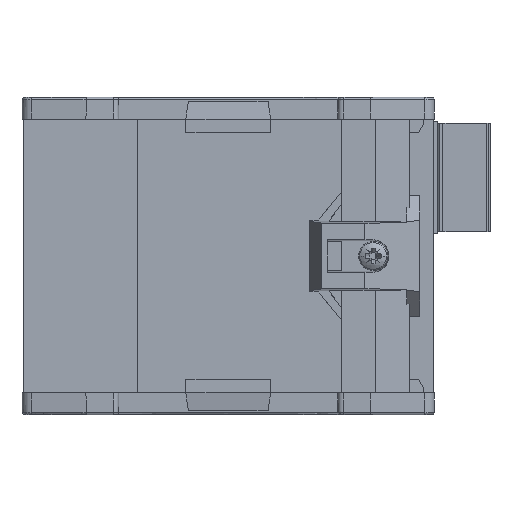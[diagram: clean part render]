
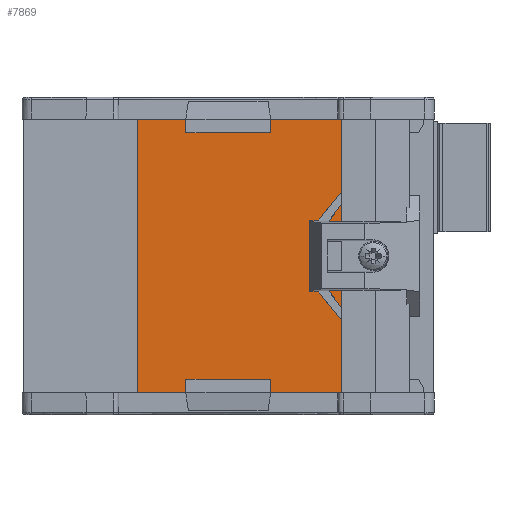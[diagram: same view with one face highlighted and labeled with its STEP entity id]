
A CAD part, left-side view. The second image highlights one B-rep face of the part: STEP entity #7869.
In plain terms, the highlighted planar face has unit normal (-1, 0, 0).
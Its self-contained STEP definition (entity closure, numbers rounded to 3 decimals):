
#2024 = PLANE('',#2025);
#2025 = AXIS2_PLACEMENT_3D('',#2026,#2027,#2028);
#2026 = CARTESIAN_POINT('',(-3.808,36.,1.));
#2027 = DIRECTION('',(0.,0.,-1.));
#2028 = DIRECTION('',(-1.,0.,0.));
#2085 = PLANE('',#2086);
#2086 = AXIS2_PLACEMENT_3D('',#2087,#2088,#2089);
#2087 = CARTESIAN_POINT('',(-3.808,36.,51.));
#2088 = DIRECTION('',(0.,0.,-1.));
#2089 = DIRECTION('',(-1.,0.,0.));
#3995 = VERTEX_POINT('',#3996);
#3996 = CARTESIAN_POINT('',(-25.228,-20.8,1.));
#4010 = PLANE('',#4011);
#4011 = AXIS2_PLACEMENT_3D('',#4012,#4013,#4014);
#4012 = CARTESIAN_POINT('',(-25.228,-20.8,1.));
#4013 = DIRECTION('',(0.,-1.,0.));
#4014 = DIRECTION('',(-1.,0.,0.));
#4022 = EDGE_CURVE('',#4023,#3995,#4025,.T.);
#4023 = VERTEX_POINT('',#4024);
#4024 = CARTESIAN_POINT('',(-25.228,16.5,1.));
#4025 = SURFACE_CURVE('',#4026,(#4030,#4037),.PCURVE_S1.);
#4026 = LINE('',#4027,#4028);
#4027 = CARTESIAN_POINT('',(-25.228,16.5,1.));
#4028 = VECTOR('',#4029,1.);
#4029 = DIRECTION('',(0.,-1.,0.));
#4030 = PCURVE('',#2024,#4031);
#4031 = DEFINITIONAL_REPRESENTATION('',(#4032),#4036);
#4032 = LINE('',#4033,#4034);
#4033 = CARTESIAN_POINT('',(21.42,-19.5));
#4034 = VECTOR('',#4035,1.);
#4035 = DIRECTION('',(0.,-1.));
#4036 = ( GEOMETRIC_REPRESENTATION_CONTEXT(2) 
PARAMETRIC_REPRESENTATION_CONTEXT() REPRESENTATION_CONTEXT('2D SPACE',''
  ) );
#4037 = PCURVE('',#4038,#4043);
#4038 = PLANE('',#4039);
#4039 = AXIS2_PLACEMENT_3D('',#4040,#4041,#4042);
#4040 = CARTESIAN_POINT('',(-25.228,16.5,1.));
#4041 = DIRECTION('',(1.,0.,0.));
#4042 = DIRECTION('',(0.,-1.,0.));
#4043 = DEFINITIONAL_REPRESENTATION('',(#4044),#4048);
#4044 = LINE('',#4045,#4046);
#4045 = CARTESIAN_POINT('',(0.,0.));
#4046 = VECTOR('',#4047,1.);
#4047 = DIRECTION('',(1.,0.));
#4048 = ( GEOMETRIC_REPRESENTATION_CONTEXT(2) 
PARAMETRIC_REPRESENTATION_CONTEXT() REPRESENTATION_CONTEXT('2D SPACE',''
  ) );
#4066 = PLANE('',#4067);
#4067 = AXIS2_PLACEMENT_3D('',#4068,#4069,#4070);
#4068 = CARTESIAN_POINT('',(-29.418,16.5,1.));
#4069 = DIRECTION('',(0.,1.,0.));
#4070 = DIRECTION('',(1.,0.,0.));
#5136 = VERTEX_POINT('',#5137);
#5137 = CARTESIAN_POINT('',(-25.228,-20.8,51.));
#5158 = EDGE_CURVE('',#5159,#5136,#5161,.T.);
#5159 = VERTEX_POINT('',#5160);
#5160 = CARTESIAN_POINT('',(-25.228,16.5,51.));
#5161 = SURFACE_CURVE('',#5162,(#5166,#5173),.PCURVE_S1.);
#5162 = LINE('',#5163,#5164);
#5163 = CARTESIAN_POINT('',(-25.228,16.5,51.));
#5164 = VECTOR('',#5165,1.);
#5165 = DIRECTION('',(0.,-1.,0.));
#5166 = PCURVE('',#2085,#5167);
#5167 = DEFINITIONAL_REPRESENTATION('',(#5168),#5172);
#5168 = LINE('',#5169,#5170);
#5169 = CARTESIAN_POINT('',(21.42,-19.5));
#5170 = VECTOR('',#5171,1.);
#5171 = DIRECTION('',(0.,-1.));
#5172 = ( GEOMETRIC_REPRESENTATION_CONTEXT(2) 
PARAMETRIC_REPRESENTATION_CONTEXT() REPRESENTATION_CONTEXT('2D SPACE',''
  ) );
#5173 = PCURVE('',#4038,#5174);
#5174 = DEFINITIONAL_REPRESENTATION('',(#5175),#5179);
#5175 = LINE('',#5176,#5177);
#5176 = CARTESIAN_POINT('',(0.,-50.));
#5177 = VECTOR('',#5178,1.);
#5178 = DIRECTION('',(1.,0.));
#5179 = ( GEOMETRIC_REPRESENTATION_CONTEXT(2) 
PARAMETRIC_REPRESENTATION_CONTEXT() REPRESENTATION_CONTEXT('2D SPACE',''
  ) );
#7846 = EDGE_CURVE('',#3995,#5136,#7847,.T.);
#7847 = SURFACE_CURVE('',#7848,(#7852,#7859),.PCURVE_S1.);
#7848 = LINE('',#7849,#7850);
#7849 = CARTESIAN_POINT('',(-25.228,-20.8,1.));
#7850 = VECTOR('',#7851,1.);
#7851 = DIRECTION('',(0.,0.,1.));
#7852 = PCURVE('',#4010,#7853);
#7853 = DEFINITIONAL_REPRESENTATION('',(#7854),#7858);
#7854 = LINE('',#7855,#7856);
#7855 = CARTESIAN_POINT('',(0.,0.));
#7856 = VECTOR('',#7857,1.);
#7857 = DIRECTION('',(0.,-1.));
#7858 = ( GEOMETRIC_REPRESENTATION_CONTEXT(2) 
PARAMETRIC_REPRESENTATION_CONTEXT() REPRESENTATION_CONTEXT('2D SPACE',''
  ) );
#7859 = PCURVE('',#4038,#7860);
#7860 = DEFINITIONAL_REPRESENTATION('',(#7861),#7865);
#7861 = LINE('',#7862,#7863);
#7862 = CARTESIAN_POINT('',(37.3,0.));
#7863 = VECTOR('',#7864,1.);
#7864 = DIRECTION('',(0.,-1.));
#7865 = ( GEOMETRIC_REPRESENTATION_CONTEXT(2) 
PARAMETRIC_REPRESENTATION_CONTEXT() REPRESENTATION_CONTEXT('2D SPACE',''
  ) );
#7869 = ADVANCED_FACE('',(#7870),#4038,.F.);
#7870 = FACE_BOUND('',#7871,.F.);
#7871 = EDGE_LOOP('',(#7872,#7893,#7894,#7895));
#7872 = ORIENTED_EDGE('',*,*,#7873,.T.);
#7873 = EDGE_CURVE('',#4023,#5159,#7874,.T.);
#7874 = SURFACE_CURVE('',#7875,(#7879,#7886),.PCURVE_S1.);
#7875 = LINE('',#7876,#7877);
#7876 = CARTESIAN_POINT('',(-25.228,16.5,1.));
#7877 = VECTOR('',#7878,1.);
#7878 = DIRECTION('',(0.,0.,1.));
#7879 = PCURVE('',#4038,#7880);
#7880 = DEFINITIONAL_REPRESENTATION('',(#7881),#7885);
#7881 = LINE('',#7882,#7883);
#7882 = CARTESIAN_POINT('',(0.,0.));
#7883 = VECTOR('',#7884,1.);
#7884 = DIRECTION('',(0.,-1.));
#7885 = ( GEOMETRIC_REPRESENTATION_CONTEXT(2) 
PARAMETRIC_REPRESENTATION_CONTEXT() REPRESENTATION_CONTEXT('2D SPACE',''
  ) );
#7886 = PCURVE('',#4066,#7887);
#7887 = DEFINITIONAL_REPRESENTATION('',(#7888),#7892);
#7888 = LINE('',#7889,#7890);
#7889 = CARTESIAN_POINT('',(4.19,0.));
#7890 = VECTOR('',#7891,1.);
#7891 = DIRECTION('',(0.,-1.));
#7892 = ( GEOMETRIC_REPRESENTATION_CONTEXT(2) 
PARAMETRIC_REPRESENTATION_CONTEXT() REPRESENTATION_CONTEXT('2D SPACE',''
  ) );
#7893 = ORIENTED_EDGE('',*,*,#5158,.T.);
#7894 = ORIENTED_EDGE('',*,*,#7846,.F.);
#7895 = ORIENTED_EDGE('',*,*,#4022,.F.);
